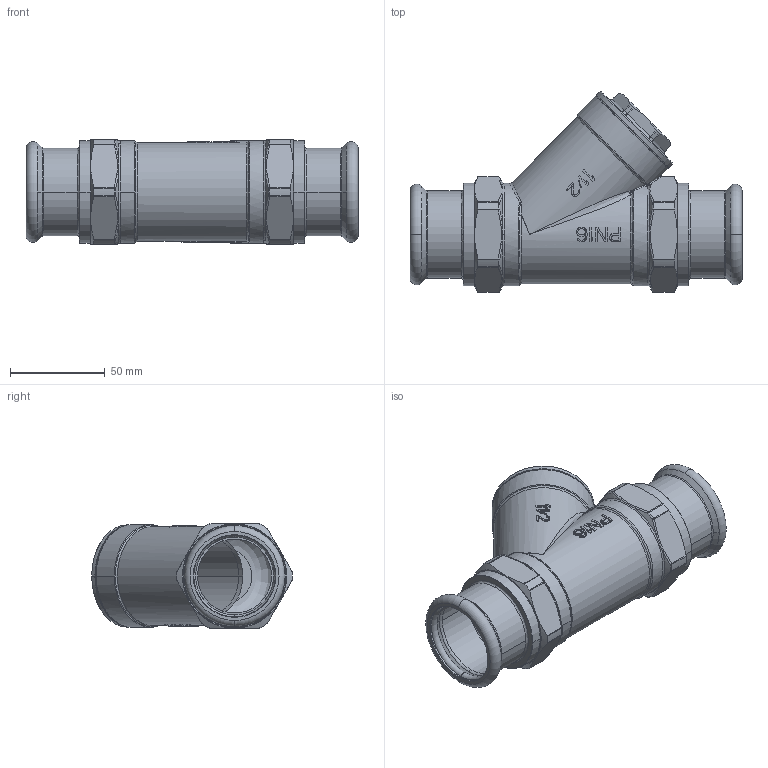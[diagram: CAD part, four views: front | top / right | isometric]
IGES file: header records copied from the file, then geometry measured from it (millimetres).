
Global section: file name: No Iges File Name specified; native system: AutoDesk Inventor R12.0; preprocessor: AutoDesk Inventor Iges Exporter R12.0; date: 20120208.151920; units: millimetre
Bounding box: 175.2 x 105.87 x 55 mm (x, y, z)
Volume: 144550 mm3; surface area: 93291 mm2
Topology: 1 solids, 2 shells, 615 faces, 1540 edges, 953 vertices
Faces by surface type: bspline 207, plane 130, revolution 94, cylinder 90, cone 46, torus 26, sphere 22
